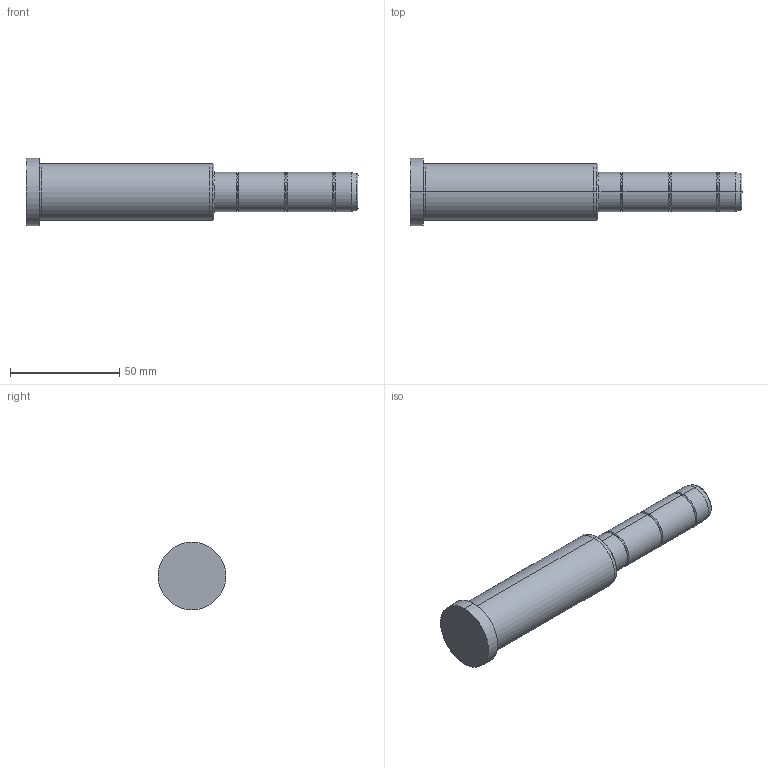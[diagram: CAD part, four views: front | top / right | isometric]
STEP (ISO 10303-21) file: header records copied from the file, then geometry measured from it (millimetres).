
FILE_DESCRIPTION( ( 'STEP AP203' ), '1' );
FILE_NAME( 'C:/Projects/D02 - 18x86x66.step', '2003-01-04T13:26:26', ( ' ' ), ( ' ' ), 'XStep 1.0', ' ', ' ' );
FILE_SCHEMA( ( 'CONFIG_CONTROL_DESIGN' ) );
Length unit declared in the file: metre
Products named in the file (1): 1
Bounding box: 152 x 31 x 31 mm (x, y, z)
Volume: 63716.9 mm3; surface area: 12361 mm2
Topology: 1 solids, 1 shells, 42 faces, 82 edges, 46 vertices
Faces by surface type: bspline 22, revolution 20
Entity records: 1325 total; most frequent: CARTESIAN_POINT 517, ORIENTED_EDGE 164, DIRECTION 134, EDGE_CURVE 82, AXIS2_PLACEMENT_3D 47, EDGE_LOOP 46, VERTEX_POINT 46, CIRCLE 46
